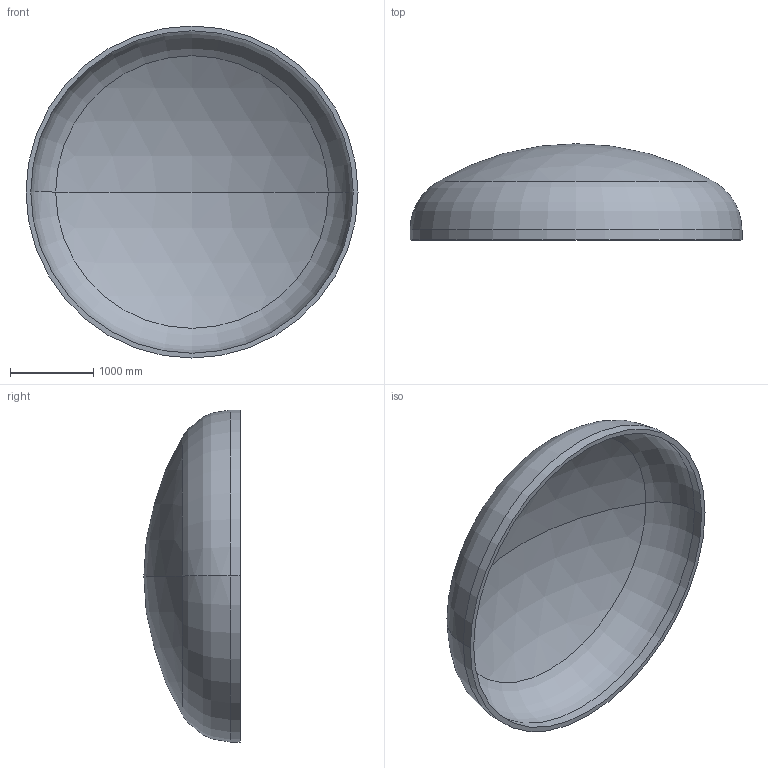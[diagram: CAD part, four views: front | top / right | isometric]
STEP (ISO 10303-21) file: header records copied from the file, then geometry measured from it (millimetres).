
FILE_DESCRIPTION (( 'STEP AP203' ), '1' );
FILE_NAME ('DIN 28013 Korbbogenform_-_Boden DIN 28013 - 4000 x 120 - I - s=58.step', '2016-07-01T22:32:52', ( '' ), ( '' ), 'SwSTEP 2.0', 'SolidWorks 2013', '' );
FILE_SCHEMA (( 'CONFIG_CONTROL_DESIGN' ));
Length unit declared in the file: millimetre
Products named in the file (1): DIN 28013 Korbbogenform_-_Boden DIN 28013 - 4000 x 120 - I - s=58
Bounding box: 4000 x 1159.6 x 4000 mm (x, y, z)
Volume: 1076172459.6 mm3; surface area: 37834708.5 mm2
Topology: 1 solids, 1 shells, 13 faces, 24 edges, 14 vertices
Faces by surface type: torus 4, cylinder 4, sphere 4, plane 1
Entity records: 407 total; most frequent: DIRECTION 72, CARTESIAN_POINT 52, ORIENTED_EDGE 48, AXIS2_PLACEMENT_3D 34, EDGE_CURVE 24, CIRCLE 20, EDGE_LOOP 14, VERTEX_POINT 14
